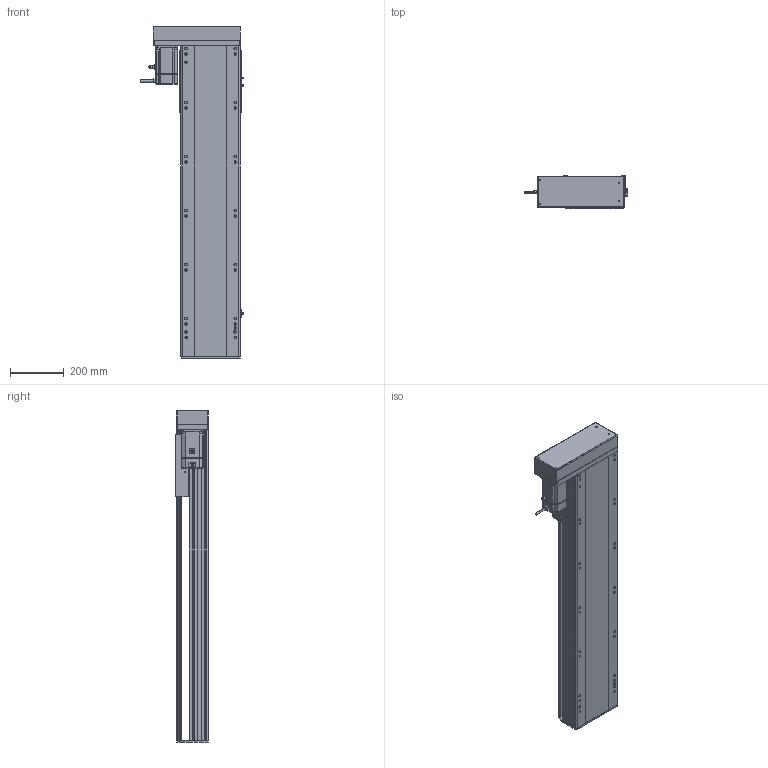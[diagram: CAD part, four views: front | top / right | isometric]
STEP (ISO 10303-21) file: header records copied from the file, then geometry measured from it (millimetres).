
FILE_DESCRIPTION (( 'STEP AP214' ), '1' );
FILE_NAME ('RTH22-XX-850-R-M75-C4.STEP', '2025-10-25T03:11:56', ( 'Microsoft' ), ( 'Microsoft' ), 'SwSTEP 2.0', 'SolidWorks 2018', '' );
FILE_SCHEMA (( 'AUTOMOTIVE_DESIGN' ));
Length unit declared in the file: millimetre
Products named in the file (10): N_750W萇儂^RTH22-XX-XX-R-M75-C4; N_RTH22-L-007奻裔^RTH22-XX-XX-R-M75-C4; N_RTH22-L-018裔赽^RTH22-XX-XX-R-M75-C4; N_OMRON EE-SX672 传感器^RTH22-XX-XX-R-M75-C4; N_RTH22-GY-001耜裔^RTH22-XX-XX-R-M75-C4; N_RTH22-L-011菁釱^RTH22-XX-XX-R-M75-C4; RTH22-XX-850-R-M75-C4; N_RTH22-L-004-SFS25賑釱^RTH22-XX-XX-R-M75-C4; N_RTH22-GY-013外置感应片^RTH22-XX-XX-R-M75-C4; N_RTH22-R-008-P75萇儂啣^RTH22-XX-XX-R-M75-C4
Assembly tree (11 placements, depth 2):
  RTH22-XX-850-R-M75-C4
    N_RTH22-L-011菁釱^RTH22-XX-XX-R-M75-C4
    N_RTH22-GY-001耜裔^RTH22-XX-XX-R-M75-C4
    N_750W萇儂^RTH22-XX-XX-R-M75-C4
    N_RTH22-R-008-P75萇儂啣^RTH22-XX-XX-R-M75-C4
    N_RTH22-L-007奻裔^RTH22-XX-XX-R-M75-C4
    N_OMRON EE-SX672 传感器^RTH22-XX-XX-R-M75-C4  x3
    N_RTH22-GY-013外置感应片^RTH22-XX-XX-R-M75-C4
    N_RTH22-L-004-SFS25賑釱^RTH22-XX-XX-R-M75-C4
    N_RTH22-L-018裔赽^RTH22-XX-XX-R-M75-C4
Bounding box: 384.7 x 122 x 1229.7 mm (x, y, z)
Volume: 17168521.7 mm3; surface area: 1942944.5 mm2
Topology: 11 solids, 11 shells, 1592 faces, 4347 edges, 2803 vertices
Faces by surface type: plane 793, cylinder 462, bspline 279, cone 58
Entity records: 39967 total; most frequent: CARTESIAN_POINT 12202, ORIENTED_EDGE 5670, DIRECTION 5341, EDGE_CURVE 2835, VERTEX_POINT 1839, AXIS2_PLACEMENT_3D 1794, VECTOR 1753, LINE 1753
